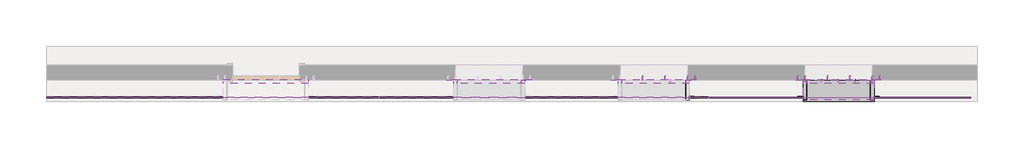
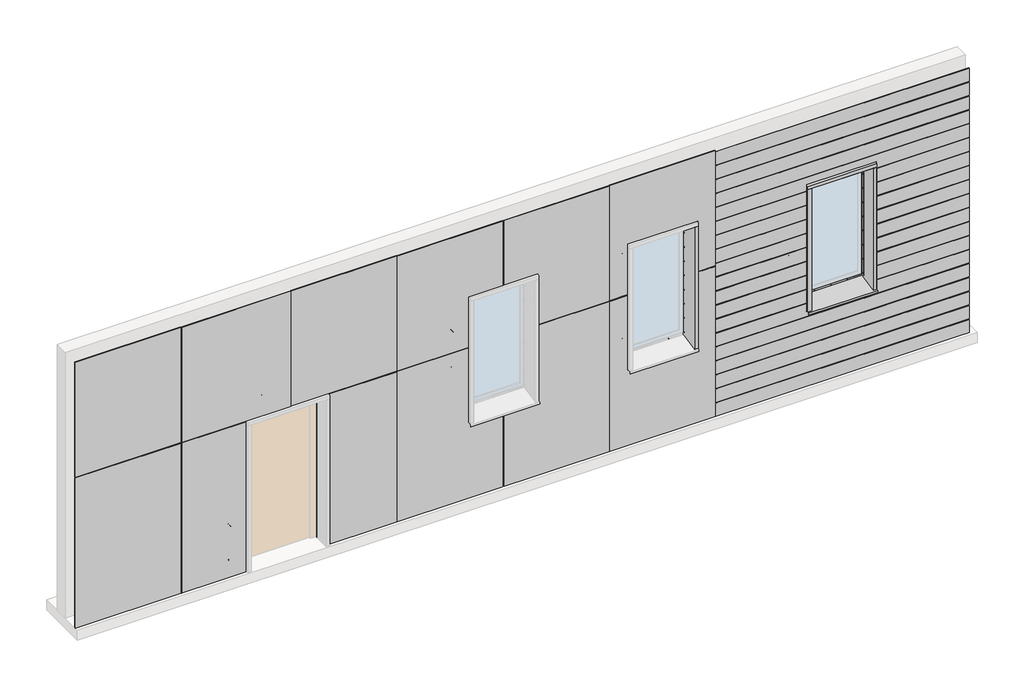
# One storey, part 2 of 2: 114 proxies.
"""IFC4 building model written with IfcOpenShell, lengths in millimetres."""

from ifc_helpers import new_model, si_unit, origin, place, context, project, spatial, transform, mapped, element, save
from components import generic_models_632e174b, generic_models_137cf94e, generic_models_0f481bf6, generic_models_65506e06, generic_models_87b4bbea, generic_models_6a7d74ae, generic_models_780b6e42, generic_models_17260e46, generic_models_9d7912f3, generic_models_60c2d6ae, generic_models_542c7b8f, generic_models_c584d363, generic_models_235948e7, generic_models_4ce7e5f8, generic_models_e8aae874, generic_models_bc7fca1e, generic_models_e7adf15b, generic_models_47fed5b4, generic_models_8ac005f5, generic_models_0a732065, generic_models_54ea19ca, generic_models_e52442b3, generic_models_6bfc909d, generic_models_a0d2c6d1, generic_models_4f86fac6, generic_models_359a6e18, generic_models_d225eb16, generic_models_ba442aa3

model = new_model("IFC4")

# Units and contexts
model_context = context("Model", 3, world=origin())
ifc_project = project(units=[si_unit("LENGTHUNIT", "METRE", prefix="MILLI")], contexts=[model_context])

# Site, building, storey
site = spatial("IfcSite", under=ifc_project)
building = spatial("IfcBuilding", under=site)
storey = spatial("IfcBuildingStorey", under=building, Name="Уровень 1", Elevation=0.0)

# Proxies
placement = place(None, origin())
generic_models_shape = generic_models_632e174b(model_context)
element("IfcBuildingElementProxy", 1, Name="ALT_Дюбель-гвоздь : 8х60", ObjectType="ALT_Дюбель-гвоздь : 8х60", at=placement, inside=storey, context=model_context, shape_type="MappedRepresentation", body=[
    mapped(generic_models_shape, transform((8914.3, -0.8, 1812.6666667), x_axis=(1.0, 0.0, 0.0), y_axis=(0.0, 0.0, 1.0), z_axis=(0.0, -1.0, 0.0))),
])
element("IfcBuildingElementProxy", 2, Name="ALT_Дюбель-гвоздь : 8х60", ObjectType="ALT_Дюбель-гвоздь : 8х60", at=placement, inside=storey, context=model_context, shape_type="MappedRepresentation", body=[
    mapped(generic_models_shape, transform((8914.3, -0.8, 2381.3333333), x_axis=(1.0, 0.0, 0.0), y_axis=(0.0, 0.0, 1.0), z_axis=(0.0, -1.0, 0.0))),
])
element("IfcBuildingElementProxy", 3, Name="ALT_Дюбель-гвоздь : 8х60", ObjectType="ALT_Дюбель-гвоздь : 8х60", at=placement, inside=storey, context=model_context, shape_type="MappedRepresentation", body=[
    mapped(generic_models_shape, transform((8914.3, -0.8, 1244.0), x_axis=(1.0, 0.0, 0.0), y_axis=(0.0, 0.0, 1.0), z_axis=(0.0, -1.0, 0.0))),
])
element("IfcBuildingElementProxy", 4, Name="ALT_Дюбель-гвоздь : 8х60", ObjectType="ALT_Дюбель-гвоздь : 8х60", at=placement, inside=storey, context=model_context, shape_type="MappedRepresentation", body=[
    mapped(generic_models_shape, transform((8195.5, -0.8, 3100.8), x_axis=(1.0, 0.0, 0.0), y_axis=(0.0, 0.0, 1.0), z_axis=(0.0, -1.0, 0.0))),
])
element("IfcBuildingElementProxy", 5, Name="ALT_Дюбель-гвоздь : 8х60", ObjectType="ALT_Дюбель-гвоздь : 8х60", at=placement, inside=storey, context=model_context, shape_type="MappedRepresentation", body=[
    mapped(generic_models_shape, transform((8813.5, -0.8, 3100.8), x_axis=(1.0, 0.0, 0.0), y_axis=(0.0, 0.0, 1.0), z_axis=(0.0, -1.0, 0.0))),
])
element("IfcBuildingElementProxy", 6, Name="ALT_Дюбель-гвоздь : 8х60", ObjectType="ALT_Дюбель-гвоздь : 8х60", at=placement, inside=storey, context=model_context, shape_type="MappedRepresentation", body=[
    mapped(generic_models_shape, transform((8914.3, -0.8, 2950.0), x_axis=(1.0, 0.0, 0.0), y_axis=(0.0, 0.0, 1.0), z_axis=(0.0, -1.0, 0.0))),
])
element("IfcBuildingElementProxy", 7, Name="ALT_Дюбель-гвоздь : 8х60", ObjectType="ALT_Дюбель-гвоздь : 8х60", at=placement, inside=storey, context=model_context, shape_type="MappedRepresentation", body=[
    mapped(generic_models_shape, transform((8504.5, -0.8, 3100.8), x_axis=(1.0, 0.0, 0.0), y_axis=(0.0, 0.0, 1.0), z_axis=(0.0, -1.0, 0.0))),
])
element("IfcBuildingElementProxy", 8, Name="ALT_Дюбель-гвоздь : 8х60", ObjectType="ALT_Дюбель-гвоздь : 8х60", at=placement, inside=storey, context=model_context, shape_type="MappedRepresentation", body=[
    mapped(generic_models_shape, transform((11454.3, -0.8, 1812.6666667), x_axis=(1.0, 0.0, 0.0), y_axis=(0.0, 0.0, 1.0), z_axis=(0.0, -1.0, 0.0))),
])
element("IfcBuildingElementProxy", 9, Name="ALT_Дюбель-гвоздь : 8х60", ObjectType="ALT_Дюбель-гвоздь : 8х60", at=placement, inside=storey, context=model_context, shape_type="MappedRepresentation", body=[
    mapped(generic_models_shape, transform((11454.3, -0.8, 2381.3333333), x_axis=(1.0, 0.0, 0.0), y_axis=(0.0, 0.0, 1.0), z_axis=(0.0, -1.0, 0.0))),
])
element("IfcBuildingElementProxy", 10, Name="ALT_Дюбель-гвоздь : 8х60", ObjectType="ALT_Дюбель-гвоздь : 8х60", at=placement, inside=storey, context=model_context, shape_type="MappedRepresentation", body=[
    mapped(generic_models_shape, transform((11454.3, -0.8, 1244.0), x_axis=(1.0, 0.0, 0.0), y_axis=(0.0, 0.0, 1.0), z_axis=(0.0, -1.0, 0.0))),
])
element("IfcBuildingElementProxy", 11, Name="ALT_Дюбель-гвоздь : 8х60", ObjectType="ALT_Дюбель-гвоздь : 8х60", at=placement, inside=storey, context=model_context, shape_type="MappedRepresentation", body=[
    mapped(generic_models_shape, transform((10325.7, -0.8, 1812.6666667), x_axis=(0.0, 0.0, 1.0), y_axis=(-1.0, 0.0, 0.0), z_axis=(0.0, -1.0, 0.0))),
])
element("IfcBuildingElementProxy", 12, Name="ALT_Дюбель-гвоздь : 8х60", ObjectType="ALT_Дюбель-гвоздь : 8х60", at=placement, inside=storey, context=model_context, shape_type="MappedRepresentation", body=[
    mapped(generic_models_shape, transform((10325.7, -0.8, 2381.3333333), x_axis=(0.0, 0.0, 1.0), y_axis=(-1.0, 0.0, 0.0), z_axis=(0.0, -1.0, 0.0))),
])
element("IfcBuildingElementProxy", 13, Name="ALT_Дюбель-гвоздь : 8х60", ObjectType="ALT_Дюбель-гвоздь : 8х60", at=placement, inside=storey, context=model_context, shape_type="MappedRepresentation", body=[
    mapped(generic_models_shape, transform((10325.7, -0.8, 1244.0), x_axis=(0.0, 0.0, 1.0), y_axis=(-1.0, 0.0, 0.0), z_axis=(0.0, -1.0, 0.0))),
])
element("IfcBuildingElementProxy", 14, Name="ALT_Дюбель-гвоздь : 8х60", ObjectType="ALT_Дюбель-гвоздь : 8х60", at=placement, inside=storey, context=model_context, shape_type="MappedRepresentation", body=[
    mapped(generic_models_shape, transform((10735.5, -0.8, 3100.8), x_axis=(1.0, 0.0, 0.0), y_axis=(0.0, 0.0, 1.0), z_axis=(0.0, -1.0, 0.0))),
])
element("IfcBuildingElementProxy", 15, Name="ALT_Дюбель-гвоздь : 8х60", ObjectType="ALT_Дюбель-гвоздь : 8х60", at=placement, inside=storey, context=model_context, shape_type="MappedRepresentation", body=[
    mapped(generic_models_shape, transform((11353.5, -0.8, 3100.8), x_axis=(1.0, 0.0, 0.0), y_axis=(0.0, 0.0, 1.0), z_axis=(0.0, -1.0, 0.0))),
])
element("IfcBuildingElementProxy", 16, Name="ALT_Дюбель-гвоздь : 8х60", ObjectType="ALT_Дюбель-гвоздь : 8х60", at=placement, inside=storey, context=model_context, shape_type="MappedRepresentation", body=[
    mapped(generic_models_shape, transform((11454.3, -0.8, 2950.0), x_axis=(1.0, 0.0, 0.0), y_axis=(0.0, 0.0, 1.0), z_axis=(0.0, -1.0, 0.0))),
])
element("IfcBuildingElementProxy", 17, Name="ALT_Дюбель-гвоздь : 8х60", ObjectType="ALT_Дюбель-гвоздь : 8х60", at=placement, inside=storey, context=model_context, shape_type="MappedRepresentation", body=[
    mapped(generic_models_shape, transform((10426.5, -0.8, 3100.8), x_axis=(1.0, 0.0, 0.0), y_axis=(0.0, 0.0, 1.0), z_axis=(0.0, -1.0, 0.0))),
])
element("IfcBuildingElementProxy", 18, Name="ALT_Дюбель-гвоздь : 8х60", ObjectType="ALT_Дюбель-гвоздь : 8х60", at=placement, inside=storey, context=model_context, shape_type="MappedRepresentation", body=[
    mapped(generic_models_shape, transform((10325.7, -0.8, 2950.0), x_axis=(0.0, 0.0, 1.0), y_axis=(-1.0, 0.0, 0.0), z_axis=(0.0, -1.0, 0.0))),
])
element("IfcBuildingElementProxy", 19, Name="ALT_Дюбель-гвоздь : 8х60", ObjectType="ALT_Дюбель-гвоздь : 8х60", at=placement, inside=storey, context=model_context, shape_type="MappedRepresentation", body=[
    mapped(generic_models_shape, transform((11044.5, -0.8, 3100.8), x_axis=(1.0, 0.0, 0.0), y_axis=(0.0, 0.0, 1.0), z_axis=(0.0, -1.0, 0.0))),
])
generic_models_2_shape = generic_models_137cf94e(model_context)
element("IfcBuildingElementProxy", 20, Name="ALT_Заклёпка вытяжная : ∅4x6_А2/А2", ObjectType="ALT_Заклёпка вытяжная : ∅4x6_А2/А2", at=placement, inside=storey, context=model_context, shape_type="MappedRepresentation", body=[
    mapped(generic_models_2_shape, transform((8788.5, -25.0, 1883.75), x_axis=(0.0, 0.0, 1.0), y_axis=(0.0, 1.0, 0.0), z_axis=(-1.0, 0.0, 0.0))),
])
element("IfcBuildingElementProxy", 21, Name="ALT_Заклёпка вытяжная : ∅4x6_А2/А2", ObjectType="ALT_Заклёпка вытяжная : ∅4x6_А2/А2", at=placement, inside=storey, context=model_context, shape_type="MappedRepresentation", body=[
    mapped(generic_models_2_shape, transform((8788.5, -25.0, 2097.0), x_axis=(0.0, 0.0, 1.0), y_axis=(0.0, 1.0, 0.0), z_axis=(-1.0, 0.0, 0.0))),
])
element("IfcBuildingElementProxy", 22, Name="ALT_Заклёпка вытяжная : ∅4x6_А2/А2", ObjectType="ALT_Заклёпка вытяжная : ∅4x6_А2/А2", at=placement, inside=storey, context=model_context, shape_type="MappedRepresentation", body=[
    mapped(generic_models_2_shape, transform((8788.5, -25.0, 2310.25), x_axis=(0.0, 0.0, 1.0), y_axis=(0.0, 1.0, 0.0), z_axis=(-1.0, 0.0, 0.0))),
])
element("IfcBuildingElementProxy", 23, Name="ALT_Заклёпка вытяжная : ∅4x6_А2/А2", ObjectType="ALT_Заклёпка вытяжная : ∅4x6_А2/А2", at=placement, inside=storey, context=model_context, shape_type="MappedRepresentation", body=[
    mapped(generic_models_2_shape, transform((8788.5, -25.0, 2523.5), x_axis=(0.0, 0.0, 1.0), y_axis=(0.0, 1.0, 0.0), z_axis=(-1.0, 0.0, 0.0))),
])
element("IfcBuildingElementProxy", 24, Name="ALT_Заклёпка вытяжная : ∅4x6_А2/А2", ObjectType="ALT_Заклёпка вытяжная : ∅4x6_А2/А2", at=placement, inside=storey, context=model_context, shape_type="MappedRepresentation", body=[
    mapped(generic_models_2_shape, transform((8788.5, -25.0, 2736.75), x_axis=(0.0, 0.0, 1.0), y_axis=(0.0, 1.0, 0.0), z_axis=(-1.0, 0.0, 0.0))),
])
element("IfcBuildingElementProxy", 25, Name="ALT_Заклёпка вытяжная : ∅4x6_А2/А2", ObjectType="ALT_Заклёпка вытяжная : ∅4x6_А2/А2", at=placement, inside=storey, context=model_context, shape_type="MappedRepresentation", body=[
    mapped(generic_models_2_shape, transform((8788.5, -25.0, 1244.0), x_axis=(0.0, 0.0, 1.0), y_axis=(0.0, 1.0, 0.0), z_axis=(-1.0, 0.0, 0.0))),
])
element("IfcBuildingElementProxy", 26, Name="ALT_Заклёпка вытяжная : ∅4x6_А2/А2", ObjectType="ALT_Заклёпка вытяжная : ∅4x6_А2/А2", at=placement, inside=storey, context=model_context, shape_type="MappedRepresentation", body=[
    mapped(generic_models_2_shape, transform((8788.5, -25.0, 2950.0), x_axis=(0.0, 0.0, 1.0), y_axis=(0.0, 1.0, 0.0), z_axis=(-1.0, 0.0, 0.0))),
])
element("IfcBuildingElementProxy", 27, Name="ALT_Заклёпка вытяжная : ∅4x6_А2/А2", ObjectType="ALT_Заклёпка вытяжная : ∅4x6_А2/А2", at=placement, inside=storey, context=model_context, shape_type="MappedRepresentation", body=[
    mapped(generic_models_2_shape, transform((8581.75, -0.8, 1204.0), x_axis=(-1.0, 0.0, 0.0), y_axis=(0.0, 0.0, -1.0), z_axis=(0.0, -1.0, 0.0))),
])
element("IfcBuildingElementProxy", 28, Name="ALT_Заклёпка вытяжная : ∅4x6_А2/А2", ObjectType="ALT_Заклёпка вытяжная : ∅4x6_А2/А2", at=placement, inside=storey, context=model_context, shape_type="MappedRepresentation", body=[
    mapped(generic_models_2_shape, transform((8581.75, -25.0, 2975.0), x_axis=(-1.0, 0.0, 0.0), y_axis=(0.0, 1.0, 0.0), z_axis=(0.0, 0.0, -1.0))),
])
element("IfcBuildingElementProxy", 29, Name="ALT_Заклёпка вытяжная : ∅4x6_А2/А2", ObjectType="ALT_Заклёпка вытяжная : ∅4x6_А2/А2", at=placement, inside=storey, context=model_context, shape_type="MappedRepresentation", body=[
    mapped(generic_models_2_shape, transform((8788.5, -25.0, 1457.25), x_axis=(0.0, 0.0, 1.0), y_axis=(0.0, 1.0, 0.0), z_axis=(-1.0, 0.0, 0.0))),
])
element("IfcBuildingElementProxy", 30, Name="ALT_Заклёпка вытяжная : ∅4x6_А2/А2", ObjectType="ALT_Заклёпка вытяжная : ∅4x6_А2/А2", at=placement, inside=storey, context=model_context, shape_type="MappedRepresentation", body=[
    mapped(generic_models_2_shape, transform((8788.5, -25.0, 1670.5), x_axis=(0.0, 0.0, 1.0), y_axis=(0.0, 1.0, 0.0), z_axis=(-1.0, 0.0, 0.0))),
])
element("IfcBuildingElementProxy", 31, Name="ALT_Заклёпка вытяжная : ∅4x6_А2/А2", ObjectType="ALT_Заклёпка вытяжная : ∅4x6_А2/А2", at=placement, inside=storey, context=model_context, shape_type="MappedRepresentation", body=[
    mapped(generic_models_2_shape, transform((10890.0, -0.8, 1204.0), x_axis=(-1.0, 0.0, 0.0), y_axis=(0.0, 0.0, -1.0), z_axis=(0.0, -1.0, 0.0))),
])
element("IfcBuildingElementProxy", 32, Name="ALT_Заклёпка вытяжная : ∅4x6_А2/А2", ObjectType="ALT_Заклёпка вытяжная : ∅4x6_А2/А2", at=placement, inside=storey, context=model_context, shape_type="MappedRepresentation", body=[
    mapped(generic_models_2_shape, transform((10658.25, -0.8, 1204.0), x_axis=(-1.0, 0.0, 0.0), y_axis=(0.0, 0.0, -1.0), z_axis=(0.0, -1.0, 0.0))),
])
element("IfcBuildingElementProxy", 33, Name="ALT_Заклёпка вытяжная : ∅4x6_А2/А2", ObjectType="ALT_Заклёпка вытяжная : ∅4x6_А2/А2", at=placement, inside=storey, context=model_context, shape_type="MappedRepresentation", body=[
    mapped(generic_models_2_shape, transform((11353.5, -0.8, 1204.0), x_axis=(-1.0, 0.0, 0.0), y_axis=(0.0, 0.0, -1.0), z_axis=(0.0, -1.0, 0.0))),
])
element("IfcBuildingElementProxy", 34, Name="ALT_Заклёпка вытяжная : ∅4x6_А2/А2", ObjectType="ALT_Заклёпка вытяжная : ∅4x6_А2/А2", at=placement, inside=storey, context=model_context, shape_type="MappedRepresentation", body=[
    mapped(generic_models_2_shape, transform((10426.5, -0.8, 1204.0), x_axis=(-1.0, 0.0, 0.0), y_axis=(0.0, 0.0, -1.0), z_axis=(0.0, -1.0, 0.0))),
])
element("IfcBuildingElementProxy", 35, Name="ALT_Заклёпка вытяжная : ∅4x6_А2/А2", ObjectType="ALT_Заклёпка вытяжная : ∅4x6_А2/А2", at=placement, inside=storey, context=model_context, shape_type="MappedRepresentation", body=[
    mapped(generic_models_2_shape, transform((10890.0, -25.0, 2975.0), x_axis=(-1.0, 0.0, 0.0), y_axis=(0.0, 1.0, 0.0), z_axis=(0.0, 0.0, -1.0))),
])
element("IfcBuildingElementProxy", 36, Name="ALT_Заклёпка вытяжная : ∅4x6_А2/А2", ObjectType="ALT_Заклёпка вытяжная : ∅4x6_А2/А2", at=placement, inside=storey, context=model_context, shape_type="MappedRepresentation", body=[
    mapped(generic_models_2_shape, transform((10658.25, -25.0, 2975.0), x_axis=(-1.0, 0.0, 0.0), y_axis=(0.0, 1.0, 0.0), z_axis=(0.0, 0.0, -1.0))),
])
element("IfcBuildingElementProxy", 37, Name="ALT_Заклёпка вытяжная : ∅4x6_А2/А2", ObjectType="ALT_Заклёпка вытяжная : ∅4x6_А2/А2", at=placement, inside=storey, context=model_context, shape_type="MappedRepresentation", body=[
    mapped(generic_models_2_shape, transform((11353.5, -25.0, 2975.0), x_axis=(-1.0, 0.0, 0.0), y_axis=(0.0, 1.0, 0.0), z_axis=(0.0, 0.0, -1.0))),
])
element("IfcBuildingElementProxy", 38, Name="ALT_Заклёпка вытяжная : ∅4x6_А2/А2", ObjectType="ALT_Заклёпка вытяжная : ∅4x6_А2/А2", at=placement, inside=storey, context=model_context, shape_type="MappedRepresentation", body=[
    mapped(generic_models_2_shape, transform((11328.5, -25.0, 1883.75), x_axis=(0.0, 0.0, 1.0), y_axis=(0.0, 1.0, 0.0), z_axis=(-1.0, 0.0, 0.0))),
])
element("IfcBuildingElementProxy", 39, Name="ALT_Заклёпка вытяжная : ∅4x6_А2/А2", ObjectType="ALT_Заклёпка вытяжная : ∅4x6_А2/А2", at=placement, inside=storey, context=model_context, shape_type="MappedRepresentation", body=[
    mapped(generic_models_2_shape, transform((11328.5, -25.0, 2097.0), x_axis=(0.0, 0.0, 1.0), y_axis=(0.0, 1.0, 0.0), z_axis=(-1.0, 0.0, 0.0))),
])
element("IfcBuildingElementProxy", 40, Name="ALT_Заклёпка вытяжная : ∅4x6_А2/А2", ObjectType="ALT_Заклёпка вытяжная : ∅4x6_А2/А2", at=placement, inside=storey, context=model_context, shape_type="MappedRepresentation", body=[
    mapped(generic_models_2_shape, transform((11328.5, -25.0, 2310.25), x_axis=(0.0, 0.0, 1.0), y_axis=(0.0, 1.0, 0.0), z_axis=(-1.0, 0.0, 0.0))),
])
element("IfcBuildingElementProxy", 41, Name="ALT_Заклёпка вытяжная : ∅4x6_А2/А2", ObjectType="ALT_Заклёпка вытяжная : ∅4x6_А2/А2", at=placement, inside=storey, context=model_context, shape_type="MappedRepresentation", body=[
    mapped(generic_models_2_shape, transform((11328.5, -25.0, 2523.5), x_axis=(0.0, 0.0, 1.0), y_axis=(0.0, 1.0, 0.0), z_axis=(-1.0, 0.0, 0.0))),
])
element("IfcBuildingElementProxy", 42, Name="ALT_Заклёпка вытяжная : ∅4x6_А2/А2", ObjectType="ALT_Заклёпка вытяжная : ∅4x6_А2/А2", at=placement, inside=storey, context=model_context, shape_type="MappedRepresentation", body=[
    mapped(generic_models_2_shape, transform((11328.5, -25.0, 2736.75), x_axis=(0.0, 0.0, 1.0), y_axis=(0.0, 1.0, 0.0), z_axis=(-1.0, 0.0, 0.0))),
])
element("IfcBuildingElementProxy", 43, Name="ALT_Заклёпка вытяжная : ∅4x6_А2/А2", ObjectType="ALT_Заклёпка вытяжная : ∅4x6_А2/А2", at=placement, inside=storey, context=model_context, shape_type="MappedRepresentation", body=[
    mapped(generic_models_2_shape, transform((11328.5, -25.0, 1244.0), x_axis=(0.0, 0.0, 1.0), y_axis=(0.0, 1.0, 0.0), z_axis=(-1.0, 0.0, 0.0))),
])
element("IfcBuildingElementProxy", 44, Name="ALT_Заклёпка вытяжная : ∅4x6_А2/А2", ObjectType="ALT_Заклёпка вытяжная : ∅4x6_А2/А2", at=placement, inside=storey, context=model_context, shape_type="MappedRepresentation", body=[
    mapped(generic_models_2_shape, transform((10451.5, -25.0, 1883.75), x_axis=(0.0, 1.0, 0.0), y_axis=(0.0, 0.0, 1.0), z_axis=(1.0, 0.0, 0.0))),
])
element("IfcBuildingElementProxy", 45, Name="ALT_Заклёпка вытяжная : ∅4x6_А2/А2", ObjectType="ALT_Заклёпка вытяжная : ∅4x6_А2/А2", at=placement, inside=storey, context=model_context, shape_type="MappedRepresentation", body=[
    mapped(generic_models_2_shape, transform((10451.5, -25.0, 2097.0), x_axis=(0.0, 1.0, 0.0), y_axis=(0.0, 0.0, 1.0), z_axis=(1.0, 0.0, 0.0))),
])
element("IfcBuildingElementProxy", 46, Name="ALT_Заклёпка вытяжная : ∅4x6_А2/А2", ObjectType="ALT_Заклёпка вытяжная : ∅4x6_А2/А2", at=placement, inside=storey, context=model_context, shape_type="MappedRepresentation", body=[
    mapped(generic_models_2_shape, transform((10451.5, -25.0, 2310.25), x_axis=(0.0, 1.0, 0.0), y_axis=(0.0, 0.0, 1.0), z_axis=(1.0, 0.0, 0.0))),
])
element("IfcBuildingElementProxy", 47, Name="ALT_Заклёпка вытяжная : ∅4x6_А2/А2", ObjectType="ALT_Заклёпка вытяжная : ∅4x6_А2/А2", at=placement, inside=storey, context=model_context, shape_type="MappedRepresentation", body=[
    mapped(generic_models_2_shape, transform((10451.5, -25.0, 2523.5), x_axis=(0.0, 1.0, 0.0), y_axis=(0.0, 0.0, 1.0), z_axis=(1.0, 0.0, 0.0))),
])
element("IfcBuildingElementProxy", 48, Name="ALT_Заклёпка вытяжная : ∅4x6_А2/А2", ObjectType="ALT_Заклёпка вытяжная : ∅4x6_А2/А2", at=placement, inside=storey, context=model_context, shape_type="MappedRepresentation", body=[
    mapped(generic_models_2_shape, transform((10451.5, -25.0, 2736.75), x_axis=(0.0, 1.0, 0.0), y_axis=(0.0, 0.0, 1.0), z_axis=(1.0, 0.0, 0.0))),
])
element("IfcBuildingElementProxy", 49, Name="ALT_Заклёпка вытяжная : ∅4x6_А2/А2", ObjectType="ALT_Заклёпка вытяжная : ∅4x6_А2/А2", at=placement, inside=storey, context=model_context, shape_type="MappedRepresentation", body=[
    mapped(generic_models_2_shape, transform((10451.5, -25.0, 1244.0), x_axis=(0.0, 1.0, 0.0), y_axis=(0.0, 0.0, 1.0), z_axis=(1.0, 0.0, 0.0))),
])
element("IfcBuildingElementProxy", 50, Name="ALT_Заклёпка вытяжная : ∅4x6_А2/А2", ObjectType="ALT_Заклёпка вытяжная : ∅4x6_А2/А2", at=placement, inside=storey, context=model_context, shape_type="MappedRepresentation", body=[
    mapped(generic_models_2_shape, transform((11328.5, -25.0, 2950.0), x_axis=(0.0, 0.0, 1.0), y_axis=(0.0, 1.0, 0.0), z_axis=(-1.0, 0.0, 0.0))),
])
element("IfcBuildingElementProxy", 51, Name="ALT_Заклёпка вытяжная : ∅4x6_А2/А2", ObjectType="ALT_Заклёпка вытяжная : ∅4x6_А2/А2", at=placement, inside=storey, context=model_context, shape_type="MappedRepresentation", body=[
    mapped(generic_models_2_shape, transform((10426.5, -25.0, 2975.0), x_axis=(-1.0, 0.0, 0.0), y_axis=(0.0, 1.0, 0.0), z_axis=(0.0, 0.0, -1.0))),
])
element("IfcBuildingElementProxy", 52, Name="ALT_Заклёпка вытяжная : ∅4x6_А2/А2", ObjectType="ALT_Заклёпка вытяжная : ∅4x6_А2/А2", at=placement, inside=storey, context=model_context, shape_type="MappedRepresentation", body=[
    mapped(generic_models_2_shape, transform((10451.5, -25.0, 2950.0), x_axis=(0.0, 1.0, 0.0), y_axis=(0.0, 0.0, 1.0), z_axis=(1.0, 0.0, 0.0))),
])
element("IfcBuildingElementProxy", 53, Name="ALT_Заклёпка вытяжная : ∅4x6_А2/А2", ObjectType="ALT_Заклёпка вытяжная : ∅4x6_А2/А2", at=placement, inside=storey, context=model_context, shape_type="MappedRepresentation", body=[
    mapped(generic_models_2_shape, transform((11121.75, -0.8, 1204.0), x_axis=(-1.0, 0.0, 0.0), y_axis=(0.0, 0.0, -1.0), z_axis=(0.0, -1.0, 0.0))),
])
element("IfcBuildingElementProxy", 54, Name="ALT_Заклёпка вытяжная : ∅4x6_А2/А2", ObjectType="ALT_Заклёпка вытяжная : ∅4x6_А2/А2", at=placement, inside=storey, context=model_context, shape_type="MappedRepresentation", body=[
    mapped(generic_models_2_shape, transform((11121.75, -25.0, 2975.0), x_axis=(-1.0, 0.0, 0.0), y_axis=(0.0, 1.0, 0.0), z_axis=(0.0, 0.0, -1.0))),
])
element("IfcBuildingElementProxy", 55, Name="ALT_Заклёпка вытяжная : ∅4x6_А2/А2", ObjectType="ALT_Заклёпка вытяжная : ∅4x6_А2/А2", at=placement, inside=storey, context=model_context, shape_type="MappedRepresentation", body=[
    mapped(generic_models_2_shape, transform((10451.5, -25.0, 1457.25), x_axis=(0.0, 1.0, 0.0), y_axis=(0.0, 0.0, 1.0), z_axis=(1.0, 0.0, 0.0))),
])
element("IfcBuildingElementProxy", 56, Name="ALT_Заклёпка вытяжная : ∅4x6_А2/А2", ObjectType="ALT_Заклёпка вытяжная : ∅4x6_А2/А2", at=placement, inside=storey, context=model_context, shape_type="MappedRepresentation", body=[
    mapped(generic_models_2_shape, transform((10451.5, -25.0, 1670.5), x_axis=(0.0, 1.0, 0.0), y_axis=(0.0, 0.0, 1.0), z_axis=(1.0, 0.0, 0.0))),
])
element("IfcBuildingElementProxy", 57, Name="ALT_Заклёпка вытяжная : ∅4x6_А2/А2", ObjectType="ALT_Заклёпка вытяжная : ∅4x6_А2/А2", at=placement, inside=storey, context=model_context, shape_type="MappedRepresentation", body=[
    mapped(generic_models_2_shape, transform((11328.5, -25.0, 1457.25), x_axis=(0.0, 0.0, 1.0), y_axis=(0.0, 1.0, 0.0), z_axis=(-1.0, 0.0, 0.0))),
])
element("IfcBuildingElementProxy", 58, Name="ALT_Заклёпка вытяжная : ∅4x6_А2/А2", ObjectType="ALT_Заклёпка вытяжная : ∅4x6_А2/А2", at=placement, inside=storey, context=model_context, shape_type="MappedRepresentation", body=[
    mapped(generic_models_2_shape, transform((11328.5, -25.0, 1670.5), x_axis=(0.0, 0.0, 1.0), y_axis=(0.0, 1.0, 0.0), z_axis=(-1.0, 0.0, 0.0))),
])
generic_models_3_shape = generic_models_0f481bf6(model_context)
element("IfcBuildingElementProxy", 59, Name="Фиброцементная сайдинг-панель LATONIT : 8 мм", ObjectType="Фиброцементная сайдинг-панель LATONIT : 8 мм", at=placement, inside=storey, context=model_context, shape_type="MappedRepresentation", body=[
    mapped(generic_models_3_shape, transform((9110.0, 0.0, 200.0), x_axis=(0.0, 0.0, -1.0), y_axis=(1.0, 0.0, 0.0), z_axis=(0.0, -1.0, 0.0))),
])
element("IfcBuildingElementProxy", 60, Name="Фиброцементная сайдинг-панель LATONIT : 8 мм", ObjectType="Фиброцементная сайдинг-панель LATONIT : 8 мм", at=placement, inside=storey, context=model_context, shape_type="MappedRepresentation", body=[
    mapped(generic_models_3_shape, transform((9110.0, 0.0, 410.0), x_axis=(0.0, 0.0, -1.0), y_axis=(1.0, 0.0, 0.0), z_axis=(0.0, -1.0, 0.0))),
])
element("IfcBuildingElementProxy", 61, Name="Фиброцементная сайдинг-панель LATONIT : 8 мм", ObjectType="Фиброцементная сайдинг-панель LATONIT : 8 мм", at=placement, inside=storey, context=model_context, shape_type="MappedRepresentation", body=[
    mapped(generic_models_3_shape, transform((9110.0, 0.0, 620.0), x_axis=(0.0, 0.0, -1.0), y_axis=(1.0, 0.0, 0.0), z_axis=(0.0, -1.0, 0.0))),
])
element("IfcBuildingElementProxy", 62, Name="Фиброцементная сайдинг-панель LATONIT : 8 мм", ObjectType="Фиброцементная сайдинг-панель LATONIT : 8 мм", at=placement, inside=storey, context=model_context, shape_type="MappedRepresentation", body=[
    mapped(generic_models_3_shape, transform((9110.0, 0.0, 830.0), x_axis=(0.0, 0.0, -1.0), y_axis=(1.0, 0.0, 0.0), z_axis=(0.0, -1.0, 0.0))),
])
element("IfcBuildingElementProxy", 63, Name="Фиброцементная сайдинг-панель LATONIT : 8 мм", ObjectType="Фиброцементная сайдинг-панель LATONIT : 8 мм", at=placement, inside=storey, context=model_context, shape_type="MappedRepresentation", body=[
    mapped(generic_models_3_shape, transform((9110.0, 0.0, 1040.0), x_axis=(0.0, 0.0, -1.0), y_axis=(1.0, 0.0, 0.0), z_axis=(0.0, -1.0, 0.0))),
])
element("IfcBuildingElementProxy", 64, Name="Фиброцементная сайдинг-панель LATONIT : 8 мм", ObjectType="Фиброцементная сайдинг-панель LATONIT : 8 мм", at=placement, inside=storey, context=model_context, shape_type="MappedRepresentation", body=[
    mapped(generic_models_3_shape, transform((9110.0, 0.0, 3350.0), x_axis=(0.0, 0.0, -1.0), y_axis=(1.0, 0.0, 0.0), z_axis=(0.0, -1.0, 0.0))),
])
element("IfcBuildingElementProxy", 65, Name="Фиброцементная сайдинг-панель LATONIT : 8 мм", ObjectType="Фиброцементная сайдинг-панель LATONIT : 8 мм", at=placement, inside=storey, context=model_context, shape_type="MappedRepresentation", body=[
    mapped(generic_models_3_shape, transform((9110.0, 0.0, 3560.0), x_axis=(0.0, 0.0, -1.0), y_axis=(1.0, 0.0, 0.0), z_axis=(0.0, -1.0, 0.0))),
])
element("IfcBuildingElementProxy", 66, Name="Фиброцементная сайдинг-панель LATONIT : 8 мм", ObjectType="Фиброцементная сайдинг-панель LATONIT : 8 мм", at=placement, inside=storey, context=model_context, shape_type="MappedRepresentation", body=[
    mapped(generic_models_3_shape, transform((9110.0, 0.0, 3770.0), x_axis=(0.0, 0.0, -1.0), y_axis=(1.0, 0.0, 0.0), z_axis=(0.0, -1.0, 0.0))),
])
element("IfcBuildingElementProxy", 67, Name="Фиброцементная сайдинг-панель LATONIT : 8 мм", ObjectType="Фиброцементная сайдинг-панель LATONIT : 8 мм", at=placement, inside=storey, context=model_context, shape_type="MappedRepresentation", body=[
    mapped(generic_models_3_shape, transform((9110.0, 0.0, 3980.0), x_axis=(0.0, 0.0, -1.0), y_axis=(1.0, 0.0, 0.0), z_axis=(0.0, -1.0, 0.0))),
])
generic_models_4_shape = generic_models_65506e06(model_context)
element("IfcBuildingElementProxy", 68, Name="Боковой откос : Тип", ObjectType="Боковой откос : Тип", at=placement, inside=storey, context=model_context, shape_type="MappedRepresentation", body=[
    mapped(generic_models_4_shape, transform((8839.5, -250.0, 2975.0), x_axis=(0.0, 0.0, -1.0), y_axis=(1.0, 0.0, 0.0), z_axis=(0.0, -1.0, 0.0))),
])
element("IfcBuildingElementProxy", 69, Name="Боковой откос : Тип", ObjectType="Боковой откос : Тип", at=placement, inside=storey, context=model_context, shape_type="MappedRepresentation", body=[
    mapped(generic_models_4_shape, transform((11379.5, -250.0, 2975.0), x_axis=(0.0, 0.0, -1.0), y_axis=(1.0, 0.0, 0.0), z_axis=(0.0, -1.0, 0.0))),
])
generic_models_5_shape = generic_models_87b4bbea(model_context)
element("IfcBuildingElementProxy", 70, Name="Боковой откос : Тип", ObjectType="Боковой откос : Тип", at=placement, inside=storey, context=model_context, shape_type="MappedRepresentation", body=[
    mapped(generic_models_5_shape, transform((10400.5, -250.0, 2975.0), x_axis=(0.0, 0.0, -1.0), y_axis=(1.0, 0.0, 0.0), z_axis=(0.0, -1.0, 0.0))),
])
generic_models_6_shape = generic_models_6a7d74ae(model_context)
element("IfcBuildingElementProxy", 71, Name="Оцинкованный уголок : 150х50х0.8", ObjectType="Оцинкованный уголок : 150х50х0.8", at=placement, inside=storey, context=model_context, shape_type="MappedRepresentation", body=[
    mapped(generic_models_6_shape, transform((5645.7, 0.0, 2975.0), x_axis=(0.0, 0.0, -1.0), y_axis=(1.0, 0.0, 0.0), z_axis=(0.0, -1.0, 0.0))),
])
element("IfcBuildingElementProxy", 72, Name="Оцинкованный уголок : 150х50х0.8", ObjectType="Оцинкованный уголок : 150х50х0.8", at=placement, inside=storey, context=model_context, shape_type="MappedRepresentation", body=[
    mapped(generic_models_6_shape, transform((7910.7, 0.0, 2975.0), x_axis=(0.0, 0.0, -1.0), y_axis=(1.0, 0.0, 0.0), z_axis=(0.0, -1.0, 0.0))),
])
element("IfcBuildingElementProxy", 73, Name="Оцинкованный уголок : 150х50х0.8", ObjectType="Оцинкованный уголок : 150х50х0.8", at=placement, inside=storey, context=model_context, shape_type="MappedRepresentation", body=[
    mapped(generic_models_6_shape, transform((10450.7, 0.0, 2975.0), x_axis=(0.0, 0.0, -1.0), y_axis=(1.0, 0.0, 0.0), z_axis=(0.0, -1.0, 0.0))),
])
generic_models_7_shape = generic_models_780b6e42(model_context)
element("IfcBuildingElementProxy", 74, Name="Оцинкованный уголок : 150х50х0.8", ObjectType="Оцинкованный уголок : 150х50х0.8", at=placement, inside=storey, context=model_context, shape_type="MappedRepresentation", body=[
    mapped(generic_models_7_shape, transform((6524.3, 0.0, 2975.0), x_axis=(0.0, 0.0, -1.0), y_axis=(1.0, 0.0, 0.0), z_axis=(0.0, -1.0, 0.0))),
])
element("IfcBuildingElementProxy", 75, Name="Оцинкованный уголок : 150х50х0.8", ObjectType="Оцинкованный уголок : 150х50х0.8", at=placement, inside=storey, context=model_context, shape_type="MappedRepresentation", body=[
    mapped(generic_models_7_shape, transform((8789.3, 0.0, 2975.0), x_axis=(0.0, 0.0, -1.0), y_axis=(1.0, 0.0, 0.0), z_axis=(0.0, -1.0, 0.0))),
])
element("IfcBuildingElementProxy", 76, Name="Оцинкованный уголок : 150х50х0.8", ObjectType="Оцинкованный уголок : 150х50х0.8", at=placement, inside=storey, context=model_context, shape_type="MappedRepresentation", body=[
    mapped(generic_models_7_shape, transform((11329.3, 0.0, 2975.0), x_axis=(0.0, 0.0, -1.0), y_axis=(1.0, 0.0, 0.0), z_axis=(0.0, -1.0, 0.0))),
])
generic_models_8_shape = generic_models_17260e46(model_context)
element("IfcBuildingElementProxy", 77, Name="Отлив : Тип", ObjectType="Отлив : Тип", at=placement, inside=storey, context=model_context, shape_type="MappedRepresentation", body=[
    mapped(generic_models_8_shape, transform((10401.5, -250.0, 1132.0), x_axis=(1.0, 0.0, 0.0), y_axis=(0.0, 0.0, 1.0), z_axis=(0.0, -1.0, 0.0))),
])
generic_models_9_shape = generic_models_9d7912f3(model_context)
element("IfcBuildingElementProxy", 78, Name="Верхний откос : Тип", ObjectType="Верхний откос : Тип", at=placement, inside=storey, context=model_context, shape_type="MappedRepresentation", body=[
    mapped(generic_models_9_shape, transform((10401.5, -250.0, 3026.0), x_axis=(1.0, 0.0, 0.0), y_axis=(0.0, 0.0, 1.0), z_axis=(0.0, -1.0, 0.0))),
])
generic_models_10_shape = generic_models_60c2d6ae(model_context)
element("IfcBuildingElementProxy", 79, Name="Оцинкованный уголок : 150х50х0.8", ObjectType="Оцинкованный уголок : 150х50х0.8", at=placement, inside=storey, context=model_context, shape_type="MappedRepresentation", body=[
    mapped(generic_models_10_shape, transform((6573.5, 0.0, 2975.8), x_axis=(-1.0, 0.0, 0.0), y_axis=(0.0, 0.0, -1.0), z_axis=(0.0, -1.0, 0.0))),
])
element("IfcBuildingElementProxy", 80, Name="Оцинкованный уголок : 150х50х0.8", ObjectType="Оцинкованный уголок : 150х50х0.8", at=placement, inside=storey, context=model_context, shape_type="MappedRepresentation", body=[
    mapped(generic_models_10_shape, transform((8838.5, 0.0, 2975.8), x_axis=(-1.0, 0.0, 0.0), y_axis=(0.0, 0.0, -1.0), z_axis=(0.0, -1.0, 0.0))),
])
element("IfcBuildingElementProxy", 81, Name="Оцинкованный уголок : 150х50х0.8", ObjectType="Оцинкованный уголок : 150х50х0.8", at=placement, inside=storey, context=model_context, shape_type="MappedRepresentation", body=[
    mapped(generic_models_10_shape, transform((11378.5, 0.0, 2975.8), x_axis=(-1.0, 0.0, 0.0), y_axis=(0.0, 0.0, -1.0), z_axis=(0.0, -1.0, 0.0))),
])
generic_models_11_shape = generic_models_542c7b8f(model_context)
element("IfcBuildingElementProxy", 82, Name="Оцинкованный уголок : 150х50х0.8", ObjectType="Оцинкованный уголок : 150х50х0.8", at=placement, inside=storey, context=model_context, shape_type="MappedRepresentation", body=[
    mapped(generic_models_11_shape, transform((2480.7, 0.0, 2210.0), x_axis=(0.0, 0.0, -1.0), y_axis=(1.0, 0.0, 0.0), z_axis=(0.0, -1.0, 0.0))),
])
generic_models_12_shape = generic_models_c584d363(model_context)
element("IfcBuildingElementProxy", 83, Name="Оцинкованный уголок : 150х50х0.8", ObjectType="Оцинкованный уголок : 150х50х0.8", at=placement, inside=storey, context=model_context, shape_type="MappedRepresentation", body=[
    mapped(generic_models_12_shape, transform((3549.3, 0.0, 2210.0), x_axis=(0.0, 0.0, -1.0), y_axis=(1.0, 0.0, 0.0), z_axis=(0.0, -1.0, 0.0))),
])
generic_models_13_shape = generic_models_235948e7(model_context)
element("IfcBuildingElementProxy", 84, Name="Оцинкованный уголок : 150х50х0.8", ObjectType="Оцинкованный уголок : 150х50х0.8", at=placement, inside=storey, context=model_context, shape_type="MappedRepresentation", body=[
    mapped(generic_models_13_shape, transform((3598.5, 0.0, 2210.8), x_axis=(-1.0, 0.0, 0.0), y_axis=(0.0, 0.0, -1.0), z_axis=(0.0, -1.0, 0.0))),
])
generic_models_14_shape = generic_models_4ce7e5f8(model_context)
element("IfcBuildingElementProxy", 85, Name="Фиброцементная плита LATONIT окрашенная : 10 мм", ObjectType="Фиброцементная плита LATONIT окрашенная : 10 мм", at=placement, inside=storey, context=model_context, shape_type="MappedRepresentation", body=[
    mapped(generic_models_14_shape, transform((0.0, 0.0, 0.0), x_axis=(1.0, 0.0, 0.0), y_axis=(0.0, 0.0, 1.0), z_axis=(0.0, -1.0, 0.0))),
])
generic_models_15_shape = generic_models_e8aae874(model_context)
element("IfcBuildingElementProxy", 86, Name="Фиброцементная плита LATONIT окрашенная в массе_1 прямоугольное отверстие : 10 мм", ObjectType="Фиброцементная плита LATONIT окрашенная в массе_1 прямоугольное отверстие : 10 мм", at=placement, inside=storey, context=model_context, shape_type="MappedRepresentation", body=[
    mapped(generic_models_15_shape, transform((4580.0, 0.0, 2270.0), x_axis=(1.0, 0.0, 0.0), y_axis=(0.0, 0.0, 1.0), z_axis=(0.0, -1.0, 0.0))),
])
generic_models_16_shape = generic_models_bc7fca1e(model_context)
element("IfcBuildingElementProxy", 87, Name="Фиброцементная плита LATONIT окрашенная в массе_1 прямоугольное отверстие : 10 мм", ObjectType="Фиброцементная плита LATONIT окрашенная в массе_1 прямоугольное отверстие : 10 мм", at=placement, inside=storey, context=model_context, shape_type="MappedRepresentation", body=[
    mapped(generic_models_16_shape, transform((4580.0, 0.0, 0.0), x_axis=(1.0, 0.0, 0.0), y_axis=(0.0, 0.0, 1.0), z_axis=(0.0, -1.0, 0.0))),
])
generic_models_17_shape = generic_models_e7adf15b(model_context)
element("IfcBuildingElementProxy", 88, Name="Фиброцементная плита LATONIT окрашенная в массе_1 прямоугольное отверстие : 10 мм", ObjectType="Фиброцементная плита LATONIT окрашенная в массе_1 прямоугольное отверстие : 10 мм", at=placement, inside=storey, context=model_context, shape_type="MappedRepresentation", body=[
    mapped(generic_models_17_shape, transform((6090.0, 0.0, 2270.0), x_axis=(1.0, 0.0, 0.0), y_axis=(0.0, 0.0, 1.0), z_axis=(0.0, -1.0, 0.0))),
])
generic_models_18_shape = generic_models_47fed5b4(model_context)
element("IfcBuildingElementProxy", 89, Name="Фиброцементная плита LATONIT с антивандальным покрытием_1 прямоугольное отверстие : 10 мм", ObjectType="Фиброцементная плита LATONIT с антивандальным покрытием_1 прямоугольное отверстие : 10 мм", at=placement, inside=storey, context=model_context, shape_type="MappedRepresentation", body=[
    mapped(generic_models_18_shape, transform((7600.0, 0.0, 2270.0), x_axis=(1.0, 0.0, 0.0), y_axis=(0.0, 0.0, 1.0), z_axis=(0.0, -1.0, 0.0))),
])
generic_models_19_shape = generic_models_8ac005f5(model_context)
element("IfcBuildingElementProxy", 90, Name="Фиброцементная плита LATONIT с антивандальным покрытием_1 прямоугольное отверстие : 10 мм", ObjectType="Фиброцементная плита LATONIT с антивандальным покрытием_1 прямоугольное отверстие : 10 мм", at=placement, inside=storey, context=model_context, shape_type="MappedRepresentation", body=[
    mapped(generic_models_19_shape, transform((7600.0, 0.0, 0.0), x_axis=(1.0, 0.0, 0.0), y_axis=(0.0, 0.0, 1.0), z_axis=(0.0, -1.0, 0.0))),
])
generic_models_20_shape = generic_models_0a732065(model_context)
element("IfcBuildingElementProxy", 91, Name="Фиброцементная плита LATONIT окрашенная в массе_1 прямоугольное отверстие : 10 мм", ObjectType="Фиброцементная плита LATONIT окрашенная в массе_1 прямоугольное отверстие : 10 мм", at=placement, inside=storey, context=model_context, shape_type="MappedRepresentation", body=[
    mapped(generic_models_20_shape, transform((6090.0, 0.0, 0.0), x_axis=(1.0, 0.0, 0.0), y_axis=(0.0, 0.0, 1.0), z_axis=(0.0, -1.0, 0.0))),
])
generic_models_21_shape = generic_models_54ea19ca(model_context)
element("IfcBuildingElementProxy", 92, Name="Фиброцементная сайдинг-панель LATONIT : 8 мм", ObjectType="Фиброцементная сайдинг-панель LATONIT : 8 мм", at=placement, inside=storey, context=model_context, shape_type="MappedRepresentation", body=[
    mapped(generic_models_21_shape, transform((9110.0, 0.0, 2090.0), x_axis=(0.0, 0.0, -1.0), y_axis=(1.0, 0.0, 0.0), z_axis=(0.0, -1.0, 0.0))),
])
element("IfcBuildingElementProxy", 93, Name="Фиброцементная сайдинг-панель LATONIT : 8 мм", ObjectType="Фиброцементная сайдинг-панель LATONIT : 8 мм", at=placement, inside=storey, context=model_context, shape_type="MappedRepresentation", body=[
    mapped(generic_models_21_shape, transform((9110.0, 0.0, 2300.0), x_axis=(0.0, 0.0, -1.0), y_axis=(1.0, 0.0, 0.0), z_axis=(0.0, -1.0, 0.0))),
])
element("IfcBuildingElementProxy", 94, Name="Фиброцементная сайдинг-панель LATONIT : 8 мм", ObjectType="Фиброцементная сайдинг-панель LATONIT : 8 мм", at=placement, inside=storey, context=model_context, shape_type="MappedRepresentation", body=[
    mapped(generic_models_21_shape, transform((9110.0, 0.0, 2510.0), x_axis=(0.0, 0.0, -1.0), y_axis=(1.0, 0.0, 0.0), z_axis=(0.0, -1.0, 0.0))),
])
element("IfcBuildingElementProxy", 95, Name="Фиброцементная сайдинг-панель LATONIT : 8 мм", ObjectType="Фиброцементная сайдинг-панель LATONIT : 8 мм", at=placement, inside=storey, context=model_context, shape_type="MappedRepresentation", body=[
    mapped(generic_models_21_shape, transform((9110.0, 0.0, 2720.0), x_axis=(0.0, 0.0, -1.0), y_axis=(1.0, 0.0, 0.0), z_axis=(0.0, -1.0, 0.0))),
])
element("IfcBuildingElementProxy", 96, Name="Фиброцементная сайдинг-панель LATONIT : 8 мм", ObjectType="Фиброцементная сайдинг-панель LATONIT : 8 мм", at=placement, inside=storey, context=model_context, shape_type="MappedRepresentation", body=[
    mapped(generic_models_21_shape, transform((9110.0, 0.0, 2930.0), x_axis=(0.0, 0.0, -1.0), y_axis=(1.0, 0.0, 0.0), z_axis=(0.0, -1.0, 0.0))),
])
element("IfcBuildingElementProxy", 97, Name="Фиброцементная сайдинг-панель LATONIT : 8 мм", ObjectType="Фиброцементная сайдинг-панель LATONIT : 8 мм", at=placement, inside=storey, context=model_context, shape_type="MappedRepresentation", body=[
    mapped(generic_models_21_shape, transform((9110.0, 0.0, 1880.0), x_axis=(0.0, 0.0, -1.0), y_axis=(1.0, 0.0, 0.0), z_axis=(0.0, -1.0, 0.0))),
])
element("IfcBuildingElementProxy", 98, Name="Фиброцементная сайдинг-панель LATONIT : 8 мм", ObjectType="Фиброцементная сайдинг-панель LATONIT : 8 мм", at=placement, inside=storey, context=model_context, shape_type="MappedRepresentation", body=[
    mapped(generic_models_21_shape, transform((9110.0, 0.0, 1670.0), x_axis=(0.0, 0.0, -1.0), y_axis=(1.0, 0.0, 0.0), z_axis=(0.0, -1.0, 0.0))),
])
element("IfcBuildingElementProxy", 99, Name="Фиброцементная сайдинг-панель LATONIT : 8 мм", ObjectType="Фиброцементная сайдинг-панель LATONIT : 8 мм", at=placement, inside=storey, context=model_context, shape_type="MappedRepresentation", body=[
    mapped(generic_models_21_shape, transform((9110.0, 0.0, 1460.0), x_axis=(0.0, 0.0, -1.0), y_axis=(1.0, 0.0, 0.0), z_axis=(0.0, -1.0, 0.0))),
])
generic_models_22_shape = generic_models_e52442b3(model_context)
element("IfcBuildingElementProxy", 100, Name="Фиброцементная сайдинг-панель LATONIT : 8 мм", ObjectType="Фиброцементная сайдинг-панель LATONIT : 8 мм", at=placement, inside=storey, context=model_context, shape_type="MappedRepresentation", body=[
    mapped(generic_models_22_shape, transform((11388.5, 0.0, 2090.0), x_axis=(0.0, 0.0, -1.0), y_axis=(1.0, 0.0, 0.0), z_axis=(0.0, -1.0, 0.0))),
])
element("IfcBuildingElementProxy", 101, Name="Фиброцементная сайдинг-панель LATONIT : 8 мм", ObjectType="Фиброцементная сайдинг-панель LATONIT : 8 мм", at=placement, inside=storey, context=model_context, shape_type="MappedRepresentation", body=[
    mapped(generic_models_22_shape, transform((11388.5, 0.0, 2300.0), x_axis=(0.0, 0.0, -1.0), y_axis=(1.0, 0.0, 0.0), z_axis=(0.0, -1.0, 0.0))),
])
element("IfcBuildingElementProxy", 102, Name="Фиброцементная сайдинг-панель LATONIT : 8 мм", ObjectType="Фиброцементная сайдинг-панель LATONIT : 8 мм", at=placement, inside=storey, context=model_context, shape_type="MappedRepresentation", body=[
    mapped(generic_models_22_shape, transform((11388.5, 0.0, 2510.0), x_axis=(0.0, 0.0, -1.0), y_axis=(1.0, 0.0, 0.0), z_axis=(0.0, -1.0, 0.0))),
])
element("IfcBuildingElementProxy", 103, Name="Фиброцементная сайдинг-панель LATONIT : 8 мм", ObjectType="Фиброцементная сайдинг-панель LATONIT : 8 мм", at=placement, inside=storey, context=model_context, shape_type="MappedRepresentation", body=[
    mapped(generic_models_22_shape, transform((11388.5, 0.0, 2720.0), x_axis=(0.0, 0.0, -1.0), y_axis=(1.0, 0.0, 0.0), z_axis=(0.0, -1.0, 0.0))),
])
element("IfcBuildingElementProxy", 104, Name="Фиброцементная сайдинг-панель LATONIT : 8 мм", ObjectType="Фиброцементная сайдинг-панель LATONIT : 8 мм", at=placement, inside=storey, context=model_context, shape_type="MappedRepresentation", body=[
    mapped(generic_models_22_shape, transform((11388.5, 0.0, 2930.0), x_axis=(0.0, 0.0, -1.0), y_axis=(1.0, 0.0, 0.0), z_axis=(0.0, -1.0, 0.0))),
])
element("IfcBuildingElementProxy", 105, Name="Фиброцементная сайдинг-панель LATONIT : 8 мм", ObjectType="Фиброцементная сайдинг-панель LATONIT : 8 мм", at=placement, inside=storey, context=model_context, shape_type="MappedRepresentation", body=[
    mapped(generic_models_22_shape, transform((11388.5, 0.0, 1880.0), x_axis=(0.0, 0.0, -1.0), y_axis=(1.0, 0.0, 0.0), z_axis=(0.0, -1.0, 0.0))),
])
element("IfcBuildingElementProxy", 106, Name="Фиброцементная сайдинг-панель LATONIT : 8 мм", ObjectType="Фиброцементная сайдинг-панель LATONIT : 8 мм", at=placement, inside=storey, context=model_context, shape_type="MappedRepresentation", body=[
    mapped(generic_models_22_shape, transform((11388.5, 0.0, 1670.0), x_axis=(0.0, 0.0, -1.0), y_axis=(1.0, 0.0, 0.0), z_axis=(0.0, -1.0, 0.0))),
])
element("IfcBuildingElementProxy", 107, Name="Фиброцементная сайдинг-панель LATONIT : 8 мм", ObjectType="Фиброцементная сайдинг-панель LATONIT : 8 мм", at=placement, inside=storey, context=model_context, shape_type="MappedRepresentation", body=[
    mapped(generic_models_22_shape, transform((11388.5, 0.0, 1460.0), x_axis=(0.0, 0.0, -1.0), y_axis=(1.0, 0.0, 0.0), z_axis=(0.0, -1.0, 0.0))),
])
generic_models_23_shape = generic_models_6bfc909d(model_context)
element("IfcBuildingElementProxy", 108, Name="Фиброцементная сайдинг-панель LATONIT_1 прямоугольное отверстие : 8 мм", ObjectType="Фиброцементная сайдинг-панель LATONIT_1 прямоугольное отверстие : 8 мм", at=placement, inside=storey, context=model_context, shape_type="MappedRepresentation", body=[
    mapped(generic_models_23_shape, transform((9110.0, 0.0, 1250.0), x_axis=(0.0, 0.0, -1.0), y_axis=(1.0, 0.0, 0.0), z_axis=(0.0, -1.0, 0.0))),
])
generic_models_24_shape = generic_models_a0d2c6d1(model_context)
element("IfcBuildingElementProxy", 109, Name="Фиброцементная сайдинг-панель LATONIT_1 прямоугольное отверстие : 8 мм", ObjectType="Фиброцементная сайдинг-панель LATONIT_1 прямоугольное отверстие : 8 мм", at=placement, inside=storey, context=model_context, shape_type="MappedRepresentation", body=[
    mapped(generic_models_24_shape, transform((9110.0, 0.0, 3140.0), x_axis=(0.0, 0.0, -1.0), y_axis=(1.0, 0.0, 0.0), z_axis=(0.0, -1.0, 0.0))),
])
generic_models_25_shape = generic_models_4f86fac6(model_context)
element("IfcBuildingElementProxy", 110, Name="Фиброцементная плита LATONIT окрашенная : 10 мм", ObjectType="Фиброцементная плита LATONIT окрашенная : 10 мм", at=placement, inside=storey, context=model_context, shape_type="MappedRepresentation", body=[
    mapped(generic_models_25_shape, transform((0.0, 0.0, 2270.0), x_axis=(1.0, 0.0, 0.0), y_axis=(0.0, 0.0, 1.0), z_axis=(0.0, -1.0, 0.0))),
])
element("IfcBuildingElementProxy", 111, Name="Фиброцементная плита LATONIT окрашенная : 10 мм", ObjectType="Фиброцементная плита LATONIT окрашенная : 10 мм", at=placement, inside=storey, context=model_context, shape_type="MappedRepresentation", body=[
    mapped(generic_models_25_shape, transform((3070.0, 0.0, 2270.0), x_axis=(1.0, 0.0, 0.0), y_axis=(0.0, 0.0, 1.0), z_axis=(0.0, -1.0, 0.0))),
])
generic_models_26_shape = generic_models_359a6e18(model_context)
element("IfcBuildingElementProxy", 112, Name="Фиброцементная плита LATONIT окрашенная : 10 мм", ObjectType="Фиброцементная плита LATONIT окрашенная : 10 мм", at=placement, inside=storey, context=model_context, shape_type="MappedRepresentation", body=[
    mapped(generic_models_26_shape, transform((1510.0, 0.0, 0.0), x_axis=(1.0, 0.0, 0.0), y_axis=(0.0, 0.0, 1.0), z_axis=(0.0, -1.0, 0.0))),
])
generic_models_27_shape = generic_models_d225eb16(model_context)
element("IfcBuildingElementProxy", 113, Name="Фиброцементная плита LATONIT окрашенная : 10 мм", ObjectType="Фиброцементная плита LATONIT окрашенная : 10 мм", at=placement, inside=storey, context=model_context, shape_type="MappedRepresentation", body=[
    mapped(generic_models_27_shape, transform((1510.0, 0.0, 2270.0), x_axis=(1.0, 0.0, 0.0), y_axis=(0.0, 0.0, 1.0), z_axis=(0.0, -1.0, 0.0))),
])
generic_models_28_shape = generic_models_ba442aa3(model_context)
element("IfcBuildingElementProxy", 114, Name="Фиброцементная плита LATONIT окрашенная : 10 мм", ObjectType="Фиброцементная плита LATONIT окрашенная : 10 мм", at=placement, inside=storey, context=model_context, shape_type="MappedRepresentation", body=[
    mapped(generic_models_28_shape, transform((3608.5, 0.0, 0.0), x_axis=(1.0, 0.0, 0.0), y_axis=(0.0, 0.0, 1.0), z_axis=(0.0, -1.0, 0.0))),
])

save(model, "model.ifc")
